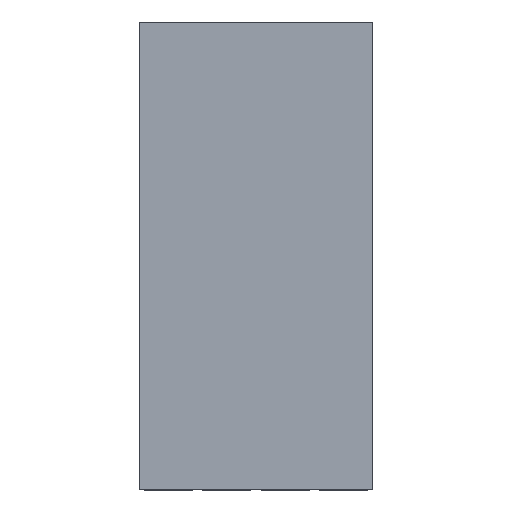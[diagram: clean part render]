
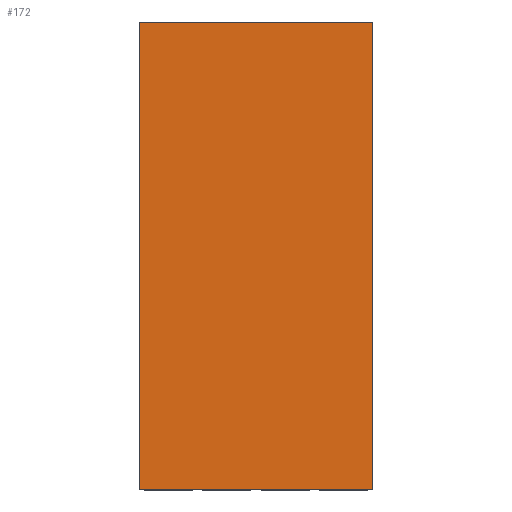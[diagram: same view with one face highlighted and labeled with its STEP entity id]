
A CAD part, top view. The second image highlights one B-rep face of the part: STEP entity #172.
In plain terms, the highlighted planar face has unit normal (0, 0, 1).
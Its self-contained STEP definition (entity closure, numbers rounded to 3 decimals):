
#13 = EDGE_CURVE ( 'NONE', #92, #244, #369, .T. ) ;
#23 = DIRECTION ( 'NONE',  ( 0., -1., 0. ) ) ;
#49 = CARTESIAN_POINT ( 'NONE',  ( -290., 580., 25. ) ) ;
#61 = DIRECTION ( 'NONE',  ( 0., 1., 0. ) ) ;
#62 = EDGE_CURVE ( 'NONE', #244, #451, #285, .T. ) ;
#76 = CARTESIAN_POINT ( 'NONE',  ( 290., 580., 25. ) ) ;
#81 = FACE_OUTER_BOUND ( 'NONE', #445, .T. ) ;
#87 = ORIENTED_EDGE ( 'NONE', *, *, #62, .T. ) ;
#92 = VERTEX_POINT ( 'NONE', #545 ) ;
#161 = VERTEX_POINT ( 'NONE', #402 ) ;
#172 = ADVANCED_FACE ( 'NONE', ( #81 ), #367, .T. ) ;
#181 = CARTESIAN_POINT ( 'NONE',  ( -290., -580., 25. ) ) ;
#184 = DIRECTION ( 'NONE',  ( 1., 0., 0. ) ) ;
#202 = CARTESIAN_POINT ( 'NONE',  ( -290., -580., 25. ) ) ;
#204 = VECTOR ( 'NONE', #23, 1000. ) ;
#236 = CARTESIAN_POINT ( 'NONE',  ( -290., 580., 25. ) ) ;
#244 = VERTEX_POINT ( 'NONE', #236 ) ;
#258 = LINE ( 'NONE', #76, #295 ) ;
#271 = AXIS2_PLACEMENT_3D ( 'NONE', #354, #326, #325 ) ;
#285 = LINE ( 'NONE', #49, #204 ) ;
#295 = VECTOR ( 'NONE', #61, 1000. ) ;
#325 = DIRECTION ( 'NONE',  ( 1., 0., 0. ) ) ;
#326 = DIRECTION ( 'NONE',  ( 0., 0., 1. ) ) ;
#345 = DIRECTION ( 'NONE',  ( -1., 0., 0. ) ) ;
#354 = CARTESIAN_POINT ( 'NONE',  ( 0., 0., 25. ) ) ;
#365 = ORIENTED_EDGE ( 'NONE', *, *, #421, .T. ) ;
#367 = PLANE ( 'NONE',  #271 ) ;
#369 = LINE ( 'NONE', #450, #396 ) ;
#396 = VECTOR ( 'NONE', #345, 1000. ) ;
#402 = CARTESIAN_POINT ( 'NONE',  ( 290., -580., 25. ) ) ;
#416 = ORIENTED_EDGE ( 'NONE', *, *, #13, .T. ) ;
#421 = EDGE_CURVE ( 'NONE', #451, #161, #495, .T. ) ;
#424 = ORIENTED_EDGE ( 'NONE', *, *, #513, .T. ) ;
#445 = EDGE_LOOP ( 'NONE', ( #87, #365, #424, #416 ) ) ;
#450 = CARTESIAN_POINT ( 'NONE',  ( -290., 580., 25. ) ) ;
#451 = VERTEX_POINT ( 'NONE', #181 ) ;
#475 = VECTOR ( 'NONE', #184, 1000. ) ;
#495 = LINE ( 'NONE', #202, #475 ) ;
#513 = EDGE_CURVE ( 'NONE', #161, #92, #258, .T. ) ;
#545 = CARTESIAN_POINT ( 'NONE',  ( 290., 580., 25. ) ) ;
